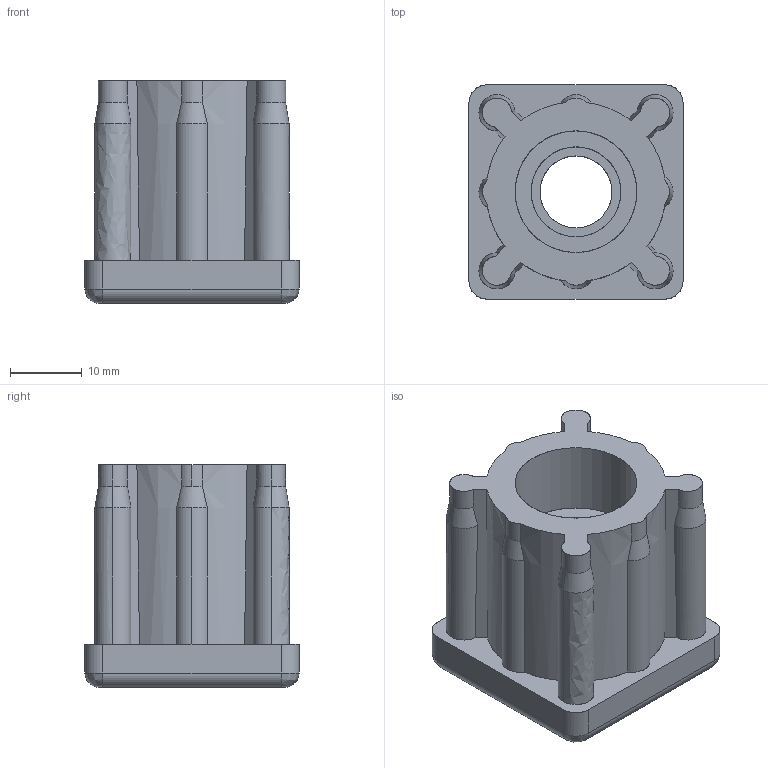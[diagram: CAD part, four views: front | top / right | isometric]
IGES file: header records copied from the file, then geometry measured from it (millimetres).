
Start section: SolidWorks IGES file using analytic representation for surfaces
Global section: file name: Y:\Tecnodin, S.L\PLAPP-Dirección - Documentos\General\Models CAD\Actiby\42006830210.IGS; native system: SolidWorks 2018; preprocessor: SolidWorks 2018; author: GerPro; date: 200225.183028; units: millimetre
Bounding box: 29.8 x 29.8 x 31 mm (x, y, z)
Surface area: 7697.2 mm2 (no closed solid volume)
Topology: 0 solids, 0 shells, 98 faces, 1106 edges, 1106 vertices
Faces by surface type: revolution 75, bspline 23
